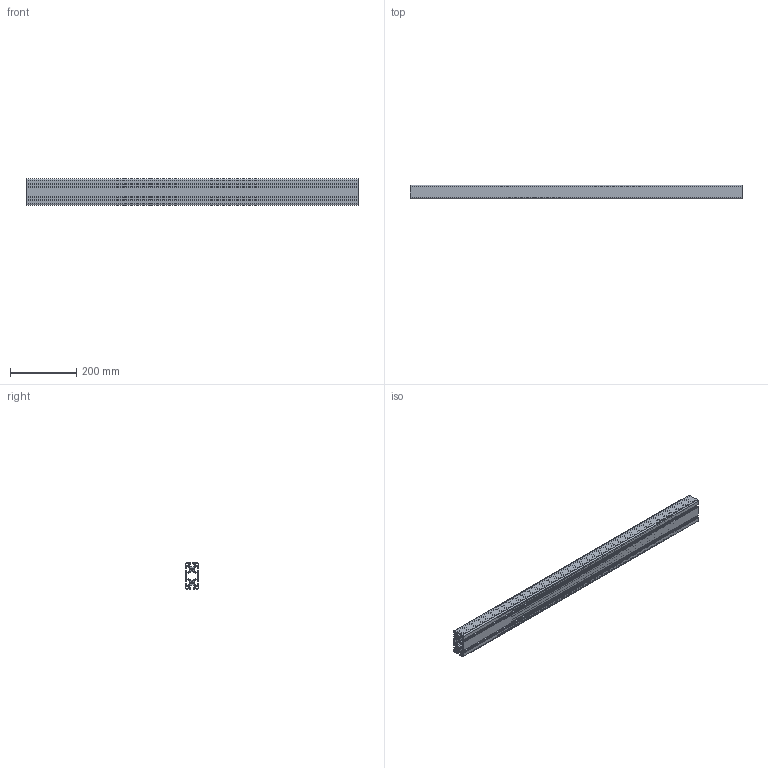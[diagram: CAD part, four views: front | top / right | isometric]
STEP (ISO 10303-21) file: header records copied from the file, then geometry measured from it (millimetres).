
FILE_DESCRIPTION (( 'STEP AP214' ), '1' );
FILE_NAME ('28349_PRO_80x40L_1N.STEP', '2016-05-03T07:54:07', ( '' ), ( '' ), 'SwSTEP 2.0', 'SolidWorks 2015', '' );
FILE_SCHEMA (( 'AUTOMOTIVE_DESIGN' ));
Length unit declared in the file: millimetre
Products named in the file (1): 28349_PRO_80x40L_1N
Bounding box: 1000 x 40 x 80 mm (x, y, z)
Volume: 1166633.5 mm3; surface area: 778069.5 mm2
Topology: 1 solids, 1 shells, 234 faces, 696 edges, 464 vertices
Faces by surface type: cylinder 120, plane 114
Entity records: 7986 total; most frequent: DIRECTION 1406, CARTESIAN_POINT 1395, ORIENTED_EDGE 1392, EDGE_CURVE 696, AXIS2_PLACEMENT_3D 475, VERTEX_POINT 464, VECTOR 456, LINE 456
